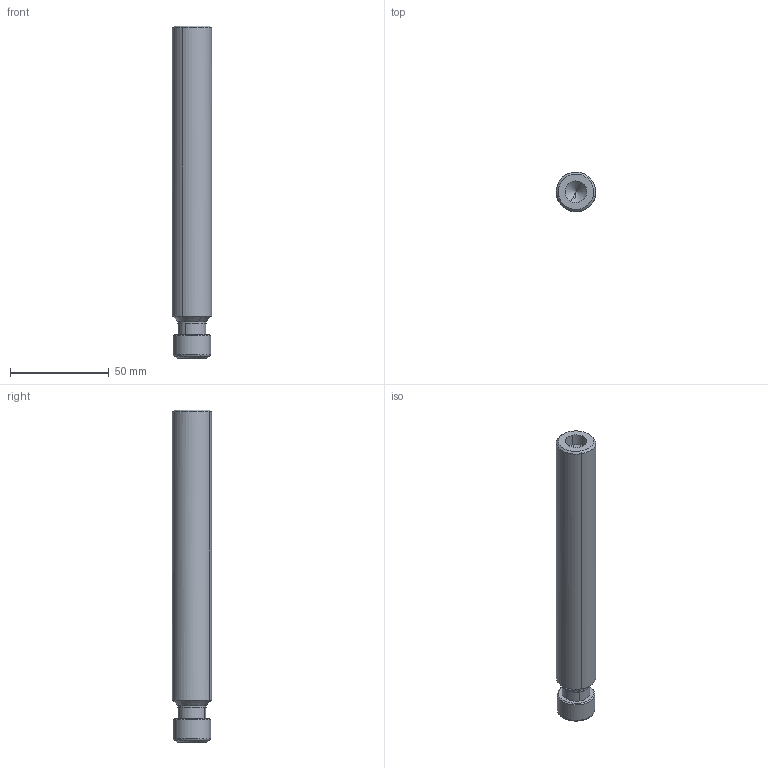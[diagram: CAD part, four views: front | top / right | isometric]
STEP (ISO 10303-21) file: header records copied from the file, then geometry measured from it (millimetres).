
FILE_DESCRIPTION(('CATIA V5 STEP','CAx-IF Rec.Pracs.--- Model Styling and Organization---1.2---2011-12-15'),'2;1');
FILE_NAME('\\nas01\drv1\utils\eitdev\rte\eit\transmagicconvert\db\out\635960508568639423\4507053-L-I.stp','2016-04-12T06:41:09+00:00',('none'),('none'),'CATIA Version 5 Release 21 SP 5 (IN-10)','CATIA V5 STEP AP214','none');
FILE_SCHEMA(('AUTOMOTIVE_DESIGN { 1 0 10303 214 1 1 1 1 }'));
Length unit declared in the file: millimetre
Products named in the file (1): ST 20X150 ER11
Bounding box: 19.99 x 20 x 168.5 mm (x, y, z)
Volume: 48456.6 mm3; surface area: 12195.1 mm2
Topology: 1 solids, 1 shells, 45 faces, 98 edges, 56 vertices
Faces by surface type: cone 18, cylinder 18, plane 5, torus 4
Entity records: 1118 total; most frequent: CARTESIAN_POINT 209, ORIENTED_EDGE 188, DIRECTION 152, EDGE_CURVE 94, AXIS2_PLACEMENT_3D 87, CIRCLE 56, VERTEX_POINT 56, EDGE_LOOP 50
